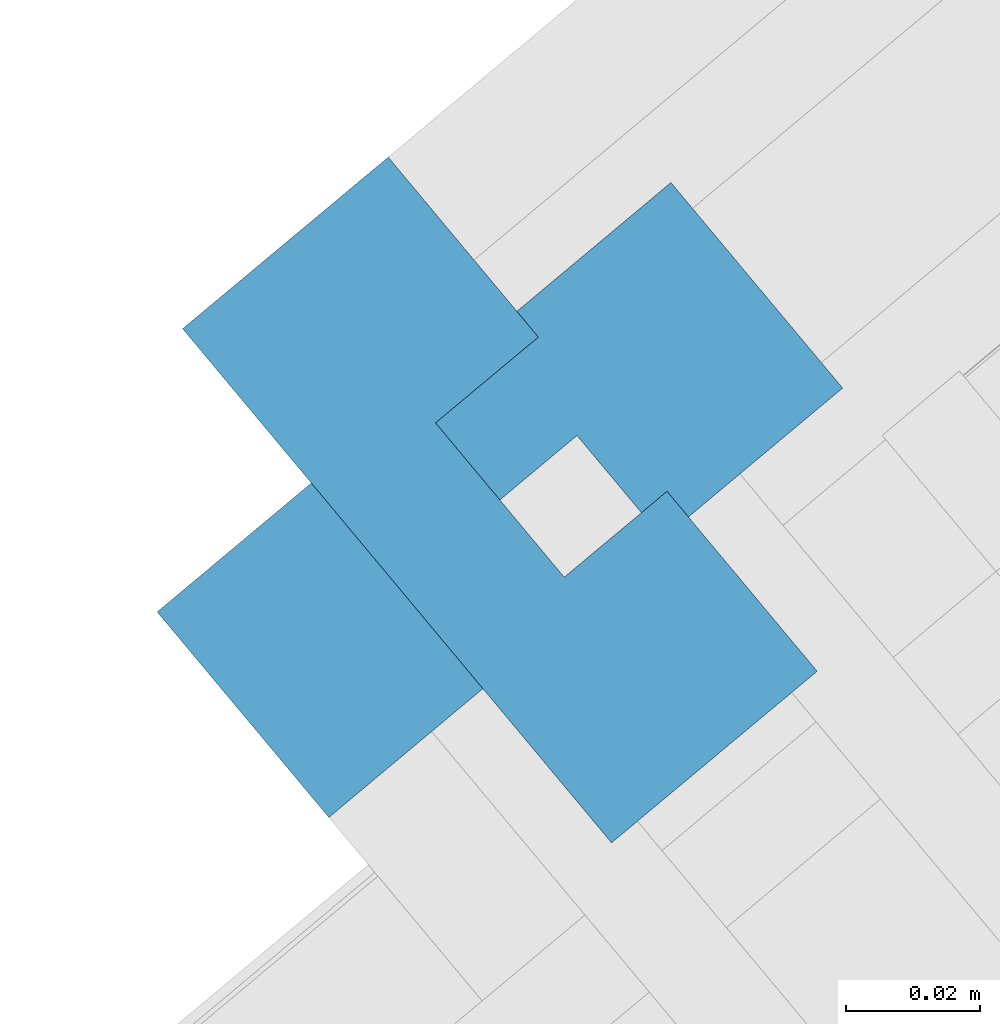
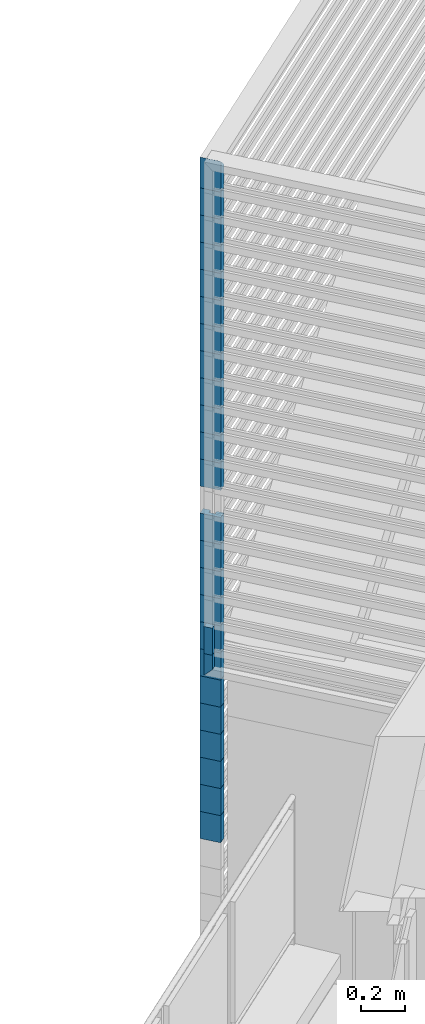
# One storey, part 41 of 50: 26 building element parts, 2 elements without a shape of their own.
"""IFC4 building model written with IfcOpenShell, lengths in metres."""

from ifc_helpers import new_model, entity, si_unit, converted_unit, derived_unit, direction, frame, origin_with_axes, place, context, subcontext, project, spatial, polygons, material, type_object, element, aggregate, save


model = new_model("IFC4")

# Units and contexts
model_context = context("Model", 3, precision=1e-05, world=origin_with_axes(), true_north=direction((0.0, 1.0)))
body_context = subcontext(model_context, "Body", "Model", "MODEL_VIEW")
ifc_project = project(units=[si_unit("LENGTHUNIT", "METRE"), si_unit("AREAUNIT", "SQUARE_METRE"), si_unit("VOLUMEUNIT", "CUBIC_METRE"), converted_unit("PLANEANGLEUNIT", "DEGREE", entity("IfcPlaneAngleMeasure", 0.0174532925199), si_unit("PLANEANGLEUNIT", "RADIAN"), dimensions=[0, 0, 0, 0, 0, 0, 0]), converted_unit("TIMEUNIT", "Year", entity("IfcTimeMeasure", 31556926.0), si_unit("TIMEUNIT", "SECOND"), dimensions=[0, 0, 1, 0, 0, 0, 0]), si_unit("MASSUNIT", "GRAM", prefix="KILO"), si_unit("THERMODYNAMICTEMPERATUREUNIT", "DEGREE_CELSIUS"), si_unit("LUMINOUSINTENSITYUNIT", "LUMEN"), si_unit("ENERGYUNIT", "JOULE", prefix="MEGA"), derived_unit("THERMALCONDUCTANCEUNIT", [(si_unit("POWERUNIT", "WATT"), 1), (si_unit("LENGTHUNIT", "METRE"), -1), (si_unit("THERMODYNAMICTEMPERATUREUNIT", "KELVIN"), -1)]), derived_unit("SPECIFICHEATCAPACITYUNIT", [(si_unit("ENERGYUNIT", "JOULE"), 1), (si_unit("MASSUNIT", "GRAM", prefix="KILO"), -1), (si_unit("THERMODYNAMICTEMPERATUREUNIT", "KELVIN"), -1)]), derived_unit("MASSDENSITYUNIT", [(si_unit("MASSUNIT", "GRAM", prefix="KILO"), 1), (si_unit("VOLUMEUNIT", "CUBIC_METRE"), -1)])], contexts=[model_context])

# Site, building, storey, space
site_placement = place(None, frame((-0.00153261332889, -0.00661245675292, 0.0), z_axis=(0.0, 0.0, 1.0), x_axis=(1.0, 0.0, 0.0)))
site = spatial("IfcSite", under=ifc_project, at=site_placement, Name="Gelände", CompositionType="ELEMENT")
building_placement = place(site_placement, origin_with_axes())
building = spatial("IfcBuilding", under=site, at=building_placement, Name="Gebäude", CompositionType="ELEMENT")
storey_placement = place(building_placement, frame((0.0, 0.0, 8.66), z_axis=(0.0, 0.0, 1.0), x_axis=(1.0, 0.0, 0.0)))
storey = spatial("IfcBuildingStorey", under=building, at=storey_placement, Name="DG2", CompositionType="ELEMENT", Elevation=8.66)
space_placement = place(storey_placement, frame((-4.06558748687, 22.1637970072, 0.22), z_axis=(0.0, 0.0, 1.0), x_axis=(-0.767365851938, -0.641209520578, 0.0)))
space = spatial("IfcSpace", under=storey, at=space_placement, CompositionType="ELEMENT", PredefinedType="NOTDEFINED")

# Curtain wall, building element parts
curtain_wall_type = type_object("IfcCurtainWallType", Name="Fassadentyp", PredefinedType="NOTDEFINED")
curtain_wall_1_placement = place(space_placement, frame((-1.95298492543, -0.601365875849, 0.1), z_axis=(0.0, 0.0, 1.0), x_axis=(-0.767365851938, 0.641209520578, 0.0)))
curtain_wall_1 = element("IfcCurtainWall", 1, at=curtain_wall_1_placement, inside=space, type_object=curtain_wall_type, Name="Fassade-001", PredefinedType="NOTDEFINED")
ifc_material = material(Name="Blech")
building_element_part_1_placement = place(curtain_wall_1_placement, origin_with_axes())
building_element_part_1 = element("IfcBuildingElementPart", 2, at=building_element_part_1_placement, material=ifc_material, Name="Blech", PredefinedType="NOTDEFINED", context=body_context, shape_type="Tessellation", body=[
    polygons([(-1.52830488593, -1.29478343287, 3.0), (-1.54752517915, -1.27174910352, 3.0), (-1.53216895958, -1.25893557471, 3.0), (-1.554592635, -1.23206219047, 3.0), (-1.58530507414, -1.25768924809, 3.0), (-1.52123743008, -1.33447034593, 3.0), (-1.49052499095, -1.3088432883, 3.0), (-1.51294866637, -1.28196990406, 3.0), (-1.52830488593, -1.29478343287, 2.85), (-1.54752517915, -1.27174910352, 2.85), (-1.53216895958, -1.25893557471, 2.85), (-1.554592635, -1.23206219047, 2.85), (-1.58530507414, -1.25768924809, 2.85), (-1.52123743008, -1.33447034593, 2.85), (-1.49052499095, -1.3088432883, 2.85), (-1.51294866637, -1.28196990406, 2.85)], [[[1, 2, 3, 4, 5, 6, 7, 8]], [[2, 1, 9, 10]], [[11, 3, 2, 10]], [[3, 11, 12, 4]], [[13, 5, 4, 12]], [[14, 6, 5, 13]], [[15, 7, 6, 14]], [[16, 8, 7, 15]], [[1, 8, 16, 9]], [[9, 16, 15, 14, 13, 12, 11, 10]]], closed=True),
])
building_element_part_2_placement = place(curtain_wall_1_placement, origin_with_axes())
building_element_part_2 = element("IfcBuildingElementPart", 3, at=building_element_part_2_placement, material=ifc_material, Name="Blech", PredefinedType="NOTDEFINED", context=body_context, shape_type="Tessellation", body=[
    polygons([(-1.52830488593, -1.29478343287, 0.75), (-1.54752517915, -1.27174910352, 0.75), (-1.53216895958, -1.25893557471, 0.75), (-1.554592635, -1.23206219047, 0.75), (-1.58530507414, -1.25768924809, 0.75), (-1.52123743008, -1.33447034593, 0.75), (-1.49052499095, -1.3088432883, 0.75), (-1.51294866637, -1.28196990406, 0.75), (-1.52830488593, -1.29478343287, 0.6), (-1.54752517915, -1.27174910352, 0.6), (-1.53216895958, -1.25893557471, 0.6), (-1.554592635, -1.23206219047, 0.6), (-1.58530507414, -1.25768924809, 0.6), (-1.52123743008, -1.33447034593, 0.6), (-1.49052499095, -1.3088432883, 0.6), (-1.51294866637, -1.28196990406, 0.6)], [[[1, 2, 3, 4, 5, 6, 7, 8]], [[2, 1, 9, 10]], [[11, 3, 2, 10]], [[3, 11, 12, 4]], [[13, 5, 4, 12]], [[14, 6, 5, 13]], [[15, 7, 6, 14]], [[16, 8, 7, 15]], [[1, 8, 16, 9]], [[9, 16, 15, 14, 13, 12, 11, 10]]], closed=True),
])
building_element_part_3_placement = place(curtain_wall_1_placement, origin_with_axes())
building_element_part_3 = element("IfcBuildingElementPart", 4, at=building_element_part_3_placement, material=ifc_material, Name="Blech", PredefinedType="NOTDEFINED", context=body_context, shape_type="Tessellation", body=[
    polygons([(-1.52830488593, -1.29478343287, 0.9), (-1.54752517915, -1.27174910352, 0.9), (-1.53216895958, -1.25893557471, 0.9), (-1.554592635, -1.23206219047, 0.9), (-1.58530507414, -1.25768924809, 0.9), (-1.52123743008, -1.33447034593, 0.9), (-1.49052499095, -1.3088432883, 0.9), (-1.51294866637, -1.28196990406, 0.9), (-1.52830488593, -1.29478343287, 0.75), (-1.54752517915, -1.27174910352, 0.75), (-1.53216895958, -1.25893557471, 0.75), (-1.554592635, -1.23206219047, 0.75), (-1.58530507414, -1.25768924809, 0.75), (-1.52123743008, -1.33447034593, 0.75), (-1.49052499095, -1.3088432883, 0.75), (-1.51294866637, -1.28196990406, 0.75)], [[[1, 2, 3, 4, 5, 6, 7, 8]], [[2, 1, 9, 10]], [[11, 3, 2, 10]], [[3, 11, 12, 4]], [[13, 5, 4, 12]], [[14, 6, 5, 13]], [[15, 7, 6, 14]], [[16, 8, 7, 15]], [[1, 8, 16, 9]], [[9, 16, 15, 14, 13, 12, 11, 10]]], closed=True),
])
building_element_part_4_placement = place(curtain_wall_1_placement, origin_with_axes())
building_element_part_4 = element("IfcBuildingElementPart", 5, at=building_element_part_4_placement, material=ifc_material, Name="Blech", PredefinedType="NOTDEFINED", context=body_context, shape_type="Tessellation", body=[
    polygons([(-1.52830488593, -1.29478343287, 1.05), (-1.54752517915, -1.27174910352, 1.05), (-1.53216895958, -1.25893557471, 1.05), (-1.554592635, -1.23206219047, 1.05), (-1.58530507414, -1.25768924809, 1.05), (-1.52123743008, -1.33447034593, 1.05), (-1.49052499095, -1.3088432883, 1.05), (-1.51294866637, -1.28196990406, 1.05), (-1.52830488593, -1.29478343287, 0.9), (-1.54752517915, -1.27174910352, 0.9), (-1.53216895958, -1.25893557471, 0.9), (-1.554592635, -1.23206219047, 0.9), (-1.58530507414, -1.25768924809, 0.9), (-1.52123743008, -1.33447034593, 0.9), (-1.49052499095, -1.3088432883, 0.9), (-1.51294866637, -1.28196990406, 0.9)], [[[1, 2, 3, 4, 5, 6, 7, 8]], [[2, 1, 9, 10]], [[11, 3, 2, 10]], [[3, 11, 12, 4]], [[13, 5, 4, 12]], [[14, 6, 5, 13]], [[15, 7, 6, 14]], [[16, 8, 7, 15]], [[1, 8, 16, 9]], [[9, 16, 15, 14, 13, 12, 11, 10]]], closed=True),
])
building_element_part_5_placement = place(curtain_wall_1_placement, origin_with_axes())
building_element_part_5 = element("IfcBuildingElementPart", 6, at=building_element_part_5_placement, material=ifc_material, Name="Blech", PredefinedType="NOTDEFINED", context=body_context, shape_type="Tessellation", body=[
    polygons([(-1.52830488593, -1.29478343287, 2.4), (-1.54752517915, -1.27174910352, 2.4), (-1.53216895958, -1.25893557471, 2.4), (-1.554592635, -1.23206219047, 2.4), (-1.58530507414, -1.25768924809, 2.4), (-1.52123743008, -1.33447034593, 2.4), (-1.49052499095, -1.3088432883, 2.4), (-1.51294866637, -1.28196990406, 2.4), (-1.52830488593, -1.29478343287, 2.25), (-1.54752517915, -1.27174910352, 2.25), (-1.53216895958, -1.25893557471, 2.25), (-1.554592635, -1.23206219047, 2.25), (-1.58530507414, -1.25768924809, 2.25), (-1.52123743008, -1.33447034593, 2.25), (-1.49052499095, -1.3088432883, 2.25), (-1.51294866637, -1.28196990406, 2.25)], [[[1, 2, 3, 4, 5, 6, 7, 8]], [[2, 1, 9, 10]], [[11, 3, 2, 10]], [[3, 11, 12, 4]], [[13, 5, 4, 12]], [[14, 6, 5, 13]], [[15, 7, 6, 14]], [[16, 8, 7, 15]], [[1, 8, 16, 9]], [[9, 16, 15, 14, 13, 12, 11, 10]]], closed=True),
])
building_element_part_6_placement = place(curtain_wall_1_placement, origin_with_axes())
building_element_part_6 = element("IfcBuildingElementPart", 7, at=building_element_part_6_placement, material=ifc_material, Name="Blech", PredefinedType="NOTDEFINED", context=body_context, shape_type="Tessellation", body=[
    polygons([(-1.52830488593, -1.29478343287, 1.2), (-1.54752517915, -1.27174910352, 1.2), (-1.53216895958, -1.25893557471, 1.2), (-1.554592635, -1.23206219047, 1.2), (-1.58530507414, -1.25768924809, 1.2), (-1.52123743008, -1.33447034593, 1.2), (-1.49052499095, -1.3088432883, 1.2), (-1.51294866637, -1.28196990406, 1.2), (-1.52830488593, -1.29478343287, 1.05), (-1.54752517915, -1.27174910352, 1.05), (-1.53216895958, -1.25893557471, 1.05), (-1.554592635, -1.23206219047, 1.05), (-1.58530507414, -1.25768924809, 1.05), (-1.52123743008, -1.33447034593, 1.05), (-1.49052499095, -1.3088432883, 1.05), (-1.51294866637, -1.28196990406, 1.05)], [[[1, 2, 3, 4, 5, 6, 7, 8]], [[2, 1, 9, 10]], [[11, 3, 2, 10]], [[3, 11, 12, 4]], [[13, 5, 4, 12]], [[14, 6, 5, 13]], [[15, 7, 6, 14]], [[16, 8, 7, 15]], [[1, 8, 16, 9]], [[9, 16, 15, 14, 13, 12, 11, 10]]], closed=True),
])
building_element_part_7_placement = place(curtain_wall_1_placement, origin_with_axes())
building_element_part_7 = element("IfcBuildingElementPart", 8, at=building_element_part_7_placement, material=ifc_material, Name="Blech", PredefinedType="NOTDEFINED", context=body_context, shape_type="Tessellation", body=[
    polygons([(-1.52830488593, -1.29478343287, 2.85), (-1.54752517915, -1.27174910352, 2.85), (-1.53216895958, -1.25893557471, 2.85), (-1.554592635, -1.23206219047, 2.85), (-1.58530507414, -1.25768924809, 2.85), (-1.52123743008, -1.33447034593, 2.85), (-1.49052499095, -1.3088432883, 2.85), (-1.51294866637, -1.28196990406, 2.85), (-1.52830488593, -1.29478343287, 2.7), (-1.54752517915, -1.27174910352, 2.7), (-1.53216895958, -1.25893557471, 2.7), (-1.554592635, -1.23206219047, 2.7), (-1.58530507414, -1.25768924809, 2.7), (-1.52123743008, -1.33447034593, 2.7), (-1.49052499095, -1.3088432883, 2.7), (-1.51294866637, -1.28196990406, 2.7)], [[[1, 2, 3, 4, 5, 6, 7, 8]], [[2, 1, 9, 10]], [[11, 3, 2, 10]], [[3, 11, 12, 4]], [[13, 5, 4, 12]], [[14, 6, 5, 13]], [[15, 7, 6, 14]], [[16, 8, 7, 15]], [[1, 8, 16, 9]], [[9, 16, 15, 14, 13, 12, 11, 10]]], closed=True),
])
building_element_part_8_placement = place(curtain_wall_1_placement, origin_with_axes())
building_element_part_8 = element("IfcBuildingElementPart", 9, at=building_element_part_8_placement, material=ifc_material, Name="Blech", PredefinedType="NOTDEFINED", context=body_context, shape_type="Tessellation", body=[
    polygons([(-1.52830488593, -1.29478343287, 1.35), (-1.54752517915, -1.27174910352, 1.35), (-1.53216895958, -1.25893557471, 1.35), (-1.554592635, -1.23206219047, 1.35), (-1.58530507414, -1.25768924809, 1.35), (-1.52123743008, -1.33447034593, 1.35), (-1.49052499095, -1.3088432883, 1.35), (-1.51294866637, -1.28196990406, 1.35), (-1.52830488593, -1.29478343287, 1.2), (-1.54752517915, -1.27174910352, 1.2), (-1.53216895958, -1.25893557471, 1.2), (-1.554592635, -1.23206219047, 1.2), (-1.58530507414, -1.25768924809, 1.2), (-1.52123743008, -1.33447034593, 1.2), (-1.49052499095, -1.3088432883, 1.2), (-1.51294866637, -1.28196990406, 1.2)], [[[1, 2, 3, 4, 5, 6, 7, 8]], [[2, 1, 9, 10]], [[11, 3, 2, 10]], [[3, 11, 12, 4]], [[13, 5, 4, 12]], [[14, 6, 5, 13]], [[15, 7, 6, 14]], [[16, 8, 7, 15]], [[1, 8, 16, 9]], [[9, 16, 15, 14, 13, 12, 11, 10]]], closed=True),
])
building_element_part_9_placement = place(curtain_wall_1_placement, origin_with_axes())
building_element_part_9 = element("IfcBuildingElementPart", 10, at=building_element_part_9_placement, material=ifc_material, Name="Blech", PredefinedType="NOTDEFINED", context=body_context, shape_type="Tessellation", body=[
    polygons([(-1.52830488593, -1.29478343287, 1.5), (-1.54752517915, -1.27174910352, 1.5), (-1.53216895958, -1.25893557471, 1.5), (-1.554592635, -1.23206219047, 1.5), (-1.58530507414, -1.25768924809, 1.5), (-1.52123743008, -1.33447034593, 1.5), (-1.49052499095, -1.3088432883, 1.5), (-1.51294866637, -1.28196990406, 1.5), (-1.52830488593, -1.29478343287, 1.35), (-1.54752517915, -1.27174910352, 1.35), (-1.53216895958, -1.25893557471, 1.35), (-1.554592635, -1.23206219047, 1.35), (-1.58530507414, -1.25768924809, 1.35), (-1.52123743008, -1.33447034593, 1.35), (-1.49052499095, -1.3088432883, 1.35), (-1.51294866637, -1.28196990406, 1.35)], [[[1, 2, 3, 4, 5, 6, 7, 8]], [[2, 1, 9, 10]], [[11, 3, 2, 10]], [[3, 11, 12, 4]], [[13, 5, 4, 12]], [[14, 6, 5, 13]], [[15, 7, 6, 14]], [[16, 8, 7, 15]], [[1, 8, 16, 9]], [[9, 16, 15, 14, 13, 12, 11, 10]]], closed=True),
])
building_element_part_10_placement = place(curtain_wall_1_placement, origin_with_axes())
building_element_part_10 = element("IfcBuildingElementPart", 11, at=building_element_part_10_placement, material=ifc_material, Name="Blech", PredefinedType="NOTDEFINED", context=body_context, shape_type="Tessellation", body=[
    polygons([(-1.52830488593, -1.29478343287, 1.65), (-1.54752517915, -1.27174910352, 1.65), (-1.53216895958, -1.25893557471, 1.65), (-1.554592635, -1.23206219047, 1.65), (-1.58530507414, -1.25768924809, 1.65), (-1.52123743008, -1.33447034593, 1.65), (-1.49052499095, -1.3088432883, 1.65), (-1.51294866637, -1.28196990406, 1.65), (-1.52830488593, -1.29478343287, 1.5), (-1.54752517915, -1.27174910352, 1.5), (-1.53216895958, -1.25893557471, 1.5), (-1.554592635, -1.23206219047, 1.5), (-1.58530507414, -1.25768924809, 1.5), (-1.52123743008, -1.33447034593, 1.5), (-1.49052499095, -1.3088432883, 1.5), (-1.51294866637, -1.28196990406, 1.5)], [[[1, 2, 3, 4, 5, 6, 7, 8]], [[2, 1, 9, 10]], [[11, 3, 2, 10]], [[3, 11, 12, 4]], [[13, 5, 4, 12]], [[14, 6, 5, 13]], [[15, 7, 6, 14]], [[16, 8, 7, 15]], [[1, 8, 16, 9]], [[9, 16, 15, 14, 13, 12, 11, 10]]], closed=True),
])
building_element_part_11_placement = place(curtain_wall_1_placement, origin_with_axes())
building_element_part_11 = element("IfcBuildingElementPart", 12, at=building_element_part_11_placement, material=ifc_material, Name="Blech", PredefinedType="NOTDEFINED", context=body_context, shape_type="Tessellation", body=[
    polygons([(-1.52830488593, -1.29478343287, 1.8), (-1.54752517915, -1.27174910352, 1.8), (-1.53216895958, -1.25893557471, 1.8), (-1.554592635, -1.23206219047, 1.8), (-1.58530507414, -1.25768924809, 1.8), (-1.52123743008, -1.33447034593, 1.8), (-1.49052499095, -1.3088432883, 1.8), (-1.51294866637, -1.28196990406, 1.8), (-1.52830488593, -1.29478343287, 1.65), (-1.54752517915, -1.27174910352, 1.65), (-1.53216895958, -1.25893557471, 1.65), (-1.554592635, -1.23206219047, 1.65), (-1.58530507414, -1.25768924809, 1.65), (-1.52123743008, -1.33447034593, 1.65), (-1.49052499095, -1.3088432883, 1.65), (-1.51294866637, -1.28196990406, 1.65)], [[[1, 2, 3, 4, 5, 6, 7, 8]], [[2, 1, 9, 10]], [[11, 3, 2, 10]], [[3, 11, 12, 4]], [[13, 5, 4, 12]], [[14, 6, 5, 13]], [[15, 7, 6, 14]], [[16, 8, 7, 15]], [[1, 8, 16, 9]], [[9, 16, 15, 14, 13, 12, 11, 10]]], closed=True),
])
building_element_part_12_placement = place(curtain_wall_1_placement, origin_with_axes())
building_element_part_12 = element("IfcBuildingElementPart", 13, at=building_element_part_12_placement, material=ifc_material, Name="Blech", PredefinedType="NOTDEFINED", context=body_context, shape_type="Tessellation", body=[
    polygons([(-1.52830488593, -1.29478343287, 2.7), (-1.54752517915, -1.27174910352, 2.7), (-1.53216895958, -1.25893557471, 2.7), (-1.554592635, -1.23206219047, 2.7), (-1.58530507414, -1.25768924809, 2.7), (-1.52123743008, -1.33447034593, 2.7), (-1.49052499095, -1.3088432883, 2.7), (-1.51294866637, -1.28196990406, 2.7), (-1.52830488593, -1.29478343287, 2.55), (-1.54752517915, -1.27174910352, 2.55), (-1.53216895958, -1.25893557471, 2.55), (-1.554592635, -1.23206219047, 2.55), (-1.58530507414, -1.25768924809, 2.55), (-1.52123743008, -1.33447034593, 2.55), (-1.49052499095, -1.3088432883, 2.55), (-1.51294866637, -1.28196990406, 2.55)], [[[1, 2, 3, 4, 5, 6, 7, 8]], [[2, 1, 9, 10]], [[11, 3, 2, 10]], [[3, 11, 12, 4]], [[13, 5, 4, 12]], [[14, 6, 5, 13]], [[15, 7, 6, 14]], [[16, 8, 7, 15]], [[1, 8, 16, 9]], [[9, 16, 15, 14, 13, 12, 11, 10]]], closed=True),
])
building_element_part_13_placement = place(curtain_wall_1_placement, origin_with_axes())
building_element_part_13 = element("IfcBuildingElementPart", 14, at=building_element_part_13_placement, material=ifc_material, Name="Blech", PredefinedType="NOTDEFINED", context=body_context, shape_type="Tessellation", body=[
    polygons([(-1.52830488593, -1.29478343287, 1.95), (-1.54752517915, -1.27174910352, 1.95), (-1.53216895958, -1.25893557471, 1.95), (-1.554592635, -1.23206219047, 1.95), (-1.58530507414, -1.25768924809, 1.95), (-1.52123743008, -1.33447034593, 1.95), (-1.49052499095, -1.3088432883, 1.95), (-1.51294866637, -1.28196990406, 1.95), (-1.52830488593, -1.29478343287, 1.8), (-1.54752517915, -1.27174910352, 1.8), (-1.53216895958, -1.25893557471, 1.8), (-1.554592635, -1.23206219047, 1.8), (-1.58530507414, -1.25768924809, 1.8), (-1.52123743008, -1.33447034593, 1.8), (-1.49052499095, -1.3088432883, 1.8), (-1.51294866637, -1.28196990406, 1.8)], [[[1, 2, 3, 4, 5, 6, 7, 8]], [[2, 1, 9, 10]], [[11, 3, 2, 10]], [[3, 11, 12, 4]], [[13, 5, 4, 12]], [[14, 6, 5, 13]], [[15, 7, 6, 14]], [[16, 8, 7, 15]], [[1, 8, 16, 9]], [[9, 16, 15, 14, 13, 12, 11, 10]]], closed=True),
])
building_element_part_14_placement = place(curtain_wall_1_placement, origin_with_axes())
building_element_part_14 = element("IfcBuildingElementPart", 15, at=building_element_part_14_placement, material=ifc_material, Name="Blech", PredefinedType="NOTDEFINED", context=body_context, shape_type="Tessellation", body=[
    polygons([(-1.52830488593, -1.29478343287, 2.1), (-1.54752517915, -1.27174910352, 2.1), (-1.53216895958, -1.25893557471, 2.1), (-1.554592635, -1.23206219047, 2.1), (-1.58530507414, -1.25768924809, 2.1), (-1.52123743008, -1.33447034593, 2.1), (-1.49052499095, -1.3088432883, 2.1), (-1.51294866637, -1.28196990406, 2.1), (-1.52830488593, -1.29478343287, 1.95), (-1.54752517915, -1.27174910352, 1.95), (-1.53216895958, -1.25893557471, 1.95), (-1.554592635, -1.23206219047, 1.95), (-1.58530507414, -1.25768924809, 1.95), (-1.52123743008, -1.33447034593, 1.95), (-1.49052499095, -1.3088432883, 1.95), (-1.51294866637, -1.28196990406, 1.95)], [[[1, 2, 3, 4, 5, 6, 7, 8]], [[2, 1, 9, 10]], [[11, 3, 2, 10]], [[3, 11, 12, 4]], [[13, 5, 4, 12]], [[14, 6, 5, 13]], [[15, 7, 6, 14]], [[16, 8, 7, 15]], [[1, 8, 16, 9]], [[9, 16, 15, 14, 13, 12, 11, 10]]], closed=True),
])
building_element_part_15_placement = place(curtain_wall_1_placement, origin_with_axes())
building_element_part_15 = element("IfcBuildingElementPart", 16, at=building_element_part_15_placement, material=ifc_material, Name="Blech", PredefinedType="NOTDEFINED", context=body_context, shape_type="Tessellation", body=[
    polygons([(-1.52830488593, -1.29478343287, 2.25), (-1.54752517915, -1.27174910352, 2.25), (-1.53216895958, -1.25893557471, 2.25), (-1.554592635, -1.23206219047, 2.25), (-1.58530507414, -1.25768924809, 2.25), (-1.52123743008, -1.33447034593, 2.25), (-1.49052499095, -1.3088432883, 2.25), (-1.51294866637, -1.28196990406, 2.25), (-1.52830488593, -1.29478343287, 2.1), (-1.54752517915, -1.27174910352, 2.1), (-1.53216895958, -1.25893557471, 2.1), (-1.554592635, -1.23206219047, 2.1), (-1.58530507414, -1.25768924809, 2.1), (-1.52123743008, -1.33447034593, 2.1), (-1.49052499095, -1.3088432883, 2.1), (-1.51294866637, -1.28196990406, 2.1)], [[[1, 2, 3, 4, 5, 6, 7, 8]], [[2, 1, 9, 10]], [[11, 3, 2, 10]], [[3, 11, 12, 4]], [[13, 5, 4, 12]], [[14, 6, 5, 13]], [[15, 7, 6, 14]], [[16, 8, 7, 15]], [[1, 8, 16, 9]], [[9, 16, 15, 14, 13, 12, 11, 10]]], closed=True),
])
building_element_part_16_placement = place(curtain_wall_1_placement, origin_with_axes())
building_element_part_16 = element("IfcBuildingElementPart", 17, at=building_element_part_16_placement, material=ifc_material, Name="Blech", PredefinedType="NOTDEFINED", context=body_context, shape_type="Tessellation", body=[
    polygons([(-1.52830488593, -1.29478343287, 3.15), (-1.54752517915, -1.27174910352, 3.15), (-1.53216895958, -1.25893557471, 3.15), (-1.554592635, -1.23206219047, 3.15), (-1.58530507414, -1.25768924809, 3.15), (-1.52123743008, -1.33447034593, 3.15), (-1.49052499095, -1.3088432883, 3.15), (-1.51294866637, -1.28196990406, 3.15), (-1.52830488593, -1.29478343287, 3.0), (-1.54752517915, -1.27174910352, 3.0), (-1.53216895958, -1.25893557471, 3.0), (-1.554592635, -1.23206219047, 3.0), (-1.58530507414, -1.25768924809, 3.0), (-1.52123743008, -1.33447034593, 3.0), (-1.49052499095, -1.3088432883, 3.0), (-1.51294866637, -1.28196990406, 3.0)], [[[1, 2, 3, 4, 5, 6, 7, 8]], [[2, 1, 9, 10]], [[11, 3, 2, 10]], [[3, 11, 12, 4]], [[13, 5, 4, 12]], [[14, 6, 5, 13]], [[15, 7, 6, 14]], [[16, 8, 7, 15]], [[1, 8, 16, 9]], [[9, 16, 15, 14, 13, 12, 11, 10]]], closed=True),
])
building_element_part_17_placement = place(curtain_wall_1_placement, origin_with_axes())
building_element_part_17 = element("IfcBuildingElementPart", 18, at=building_element_part_17_placement, material=ifc_material, Name="Blech", PredefinedType="NOTDEFINED", context=body_context, shape_type="Tessellation", body=[
    polygons([(-1.52830488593, -1.29478343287, 3.3), (-1.54752517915, -1.27174910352, 3.3), (-1.53216895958, -1.25893557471, 3.3), (-1.554592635, -1.23206219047, 3.3), (-1.58530507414, -1.25768924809, 3.3), (-1.52123743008, -1.33447034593, 3.3), (-1.49052499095, -1.3088432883, 3.3), (-1.51294866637, -1.28196990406, 3.3), (-1.52830488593, -1.29478343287, 3.15), (-1.54752517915, -1.27174910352, 3.15), (-1.53216895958, -1.25893557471, 3.15), (-1.554592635, -1.23206219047, 3.15), (-1.58530507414, -1.25768924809, 3.15), (-1.52123743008, -1.33447034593, 3.15), (-1.49052499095, -1.3088432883, 3.15), (-1.51294866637, -1.28196990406, 3.15)], [[[1, 2, 3, 4, 5, 6, 7, 8]], [[2, 1, 9, 10]], [[11, 3, 2, 10]], [[3, 11, 12, 4]], [[13, 5, 4, 12]], [[14, 6, 5, 13]], [[15, 7, 6, 14]], [[16, 8, 7, 15]], [[1, 8, 16, 9]], [[9, 16, 15, 14, 13, 12, 11, 10]]], closed=True),
])
building_element_part_18_placement = place(curtain_wall_1_placement, origin_with_axes())
building_element_part_18 = element("IfcBuildingElementPart", 19, at=building_element_part_18_placement, material=ifc_material, Name="Blech", PredefinedType="NOTDEFINED", context=body_context, shape_type="Tessellation", body=[
    polygons([(-1.52830488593, -1.29478343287, 3.45), (-1.54752517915, -1.27174910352, 3.45), (-1.53216895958, -1.25893557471, 3.45), (-1.554592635, -1.23206219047, 3.45), (-1.58530507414, -1.25768924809, 3.45), (-1.52123743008, -1.33447034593, 3.45), (-1.49052499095, -1.3088432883, 3.45), (-1.51294866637, -1.28196990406, 3.45), (-1.52830488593, -1.29478343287, 3.3), (-1.54752517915, -1.27174910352, 3.3), (-1.53216895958, -1.25893557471, 3.3), (-1.554592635, -1.23206219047, 3.3), (-1.58530507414, -1.25768924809, 3.3), (-1.52123743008, -1.33447034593, 3.3), (-1.49052499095, -1.3088432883, 3.3), (-1.51294866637, -1.28196990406, 3.3)], [[[1, 2, 3, 4, 5, 6, 7, 8]], [[2, 1, 9, 10]], [[11, 3, 2, 10]], [[3, 11, 12, 4]], [[13, 5, 4, 12]], [[14, 6, 5, 13]], [[15, 7, 6, 14]], [[16, 8, 7, 15]], [[1, 8, 16, 9]], [[9, 16, 15, 14, 13, 12, 11, 10]]], closed=True),
])
building_element_part_19_placement = place(curtain_wall_1_placement, origin_with_axes())
building_element_part_19 = element("IfcBuildingElementPart", 20, at=building_element_part_19_placement, material=ifc_material, Name="Blech", PredefinedType="NOTDEFINED", context=body_context, shape_type="Tessellation", body=[
    polygons([(-1.52830488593, -1.29478343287, 3.6), (-1.54752517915, -1.27174910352, 3.6), (-1.53216895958, -1.25893557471, 3.6), (-1.554592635, -1.23206219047, 3.6), (-1.58530507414, -1.25768924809, 3.6), (-1.52123743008, -1.33447034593, 3.6), (-1.49052499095, -1.3088432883, 3.6), (-1.51294866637, -1.28196990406, 3.6), (-1.52830488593, -1.29478343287, 3.45), (-1.54752517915, -1.27174910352, 3.45), (-1.53216895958, -1.25893557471, 3.45), (-1.554592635, -1.23206219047, 3.45), (-1.58530507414, -1.25768924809, 3.45), (-1.52123743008, -1.33447034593, 3.45), (-1.49052499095, -1.3088432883, 3.45), (-1.51294866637, -1.28196990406, 3.45)], [[[1, 2, 3, 4, 5, 6, 7, 8]], [[2, 1, 9, 10]], [[11, 3, 2, 10]], [[3, 11, 12, 4]], [[13, 5, 4, 12]], [[14, 6, 5, 13]], [[15, 7, 6, 14]], [[16, 8, 7, 15]], [[1, 8, 16, 9]], [[9, 16, 15, 14, 13, 12, 11, 10]]], closed=True),
])
building_element_part_20_placement = place(curtain_wall_1_placement, origin_with_axes())
building_element_part_20 = element("IfcBuildingElementPart", 21, at=building_element_part_20_placement, material=ifc_material, Name="Blech", PredefinedType="NOTDEFINED", context=body_context, shape_type="Tessellation", body=[
    polygons([(-1.52830488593, -1.29478343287, 3.75), (-1.54752517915, -1.27174910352, 3.75), (-1.53216895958, -1.25893557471, 3.75), (-1.554592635, -1.23206219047, 3.75), (-1.58530507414, -1.25768924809, 3.75), (-1.52123743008, -1.33447034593, 3.75), (-1.49052499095, -1.3088432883, 3.75), (-1.51294866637, -1.28196990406, 3.75), (-1.52830488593, -1.29478343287, 3.6), (-1.54752517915, -1.27174910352, 3.6), (-1.53216895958, -1.25893557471, 3.6), (-1.554592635, -1.23206219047, 3.6), (-1.58530507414, -1.25768924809, 3.6), (-1.52123743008, -1.33447034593, 3.6), (-1.49052499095, -1.3088432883, 3.6), (-1.51294866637, -1.28196990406, 3.6)], [[[1, 2, 3, 4, 5, 6, 7, 8]], [[2, 1, 9, 10]], [[11, 3, 2, 10]], [[3, 11, 12, 4]], [[13, 5, 4, 12]], [[14, 6, 5, 13]], [[15, 7, 6, 14]], [[16, 8, 7, 15]], [[1, 8, 16, 9]], [[9, 16, 15, 14, 13, 12, 11, 10]]], closed=True),
])
building_element_part_21_placement = place(curtain_wall_1_placement, origin_with_axes())
building_element_part_21 = element("IfcBuildingElementPart", 22, at=building_element_part_21_placement, material=ifc_material, Name="Blech", PredefinedType="NOTDEFINED", context=body_context, shape_type="Tessellation", body=[
    polygons([(-1.52830488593, -1.29478343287, 3.9), (-1.54752517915, -1.27174910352, 3.9), (-1.53216895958, -1.25893557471, 3.9), (-1.554592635, -1.23206219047, 3.9), (-1.58530507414, -1.25768924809, 3.9), (-1.52123743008, -1.33447034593, 3.9), (-1.49052499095, -1.3088432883, 3.9), (-1.51294866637, -1.28196990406, 3.9), (-1.52830488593, -1.29478343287, 3.75), (-1.54752517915, -1.27174910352, 3.75), (-1.53216895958, -1.25893557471, 3.75), (-1.554592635, -1.23206219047, 3.75), (-1.58530507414, -1.25768924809, 3.75), (-1.52123743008, -1.33447034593, 3.75), (-1.49052499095, -1.3088432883, 3.75), (-1.51294866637, -1.28196990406, 3.75)], [[[1, 2, 3, 4, 5, 6, 7, 8]], [[2, 1, 9, 10]], [[11, 3, 2, 10]], [[3, 11, 12, 4]], [[13, 5, 4, 12]], [[14, 6, 5, 13]], [[15, 7, 6, 14]], [[16, 8, 7, 15]], [[1, 8, 16, 9]], [[9, 16, 15, 14, 13, 12, 11, 10]]], closed=True),
])
building_element_part_22_placement = place(curtain_wall_1_placement, origin_with_axes())
building_element_part_22 = element("IfcBuildingElementPart", 23, at=building_element_part_22_placement, material=ifc_material, Name="Blech", PredefinedType="NOTDEFINED", context=body_context, shape_type="Tessellation", body=[
    polygons([(-1.52830488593, -1.29478343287, 4.05), (-1.54752517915, -1.27174910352, 4.05), (-1.53216895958, -1.25893557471, 4.05), (-1.554592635, -1.23206219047, 4.05), (-1.58530507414, -1.25768924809, 4.05), (-1.52123743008, -1.33447034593, 4.05), (-1.49052499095, -1.3088432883, 4.05), (-1.51294866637, -1.28196990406, 4.05), (-1.52830488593, -1.29478343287, 3.9), (-1.54752517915, -1.27174910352, 3.9), (-1.53216895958, -1.25893557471, 3.9), (-1.554592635, -1.23206219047, 3.9), (-1.58530507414, -1.25768924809, 3.9), (-1.52123743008, -1.33447034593, 3.9), (-1.49052499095, -1.3088432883, 3.9), (-1.51294866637, -1.28196990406, 3.9)], [[[1, 2, 3, 4, 5, 6, 7, 8]], [[2, 1, 9, 10]], [[11, 3, 2, 10]], [[3, 11, 12, 4]], [[13, 5, 4, 12]], [[14, 6, 5, 13]], [[15, 7, 6, 14]], [[16, 8, 7, 15]], [[1, 8, 16, 9]], [[9, 16, 15, 14, 13, 12, 11, 10]]], closed=True),
])
building_element_part_23_placement = place(curtain_wall_1_placement, origin_with_axes())
building_element_part_23 = element("IfcBuildingElementPart", 24, at=building_element_part_23_placement, material=ifc_material, Name="Blech", PredefinedType="NOTDEFINED", context=body_context, shape_type="Tessellation", body=[
    polygons([(-1.52830488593, -1.29478343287, 4.2), (-1.54752517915, -1.27174910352, 4.2), (-1.53216895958, -1.25893557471, 4.2), (-1.554592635, -1.23206219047, 4.2), (-1.58530507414, -1.25768924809, 4.2), (-1.52123743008, -1.33447034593, 4.2), (-1.49052499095, -1.3088432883, 4.2), (-1.51294866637, -1.28196990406, 4.2), (-1.52830488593, -1.29478343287, 4.05), (-1.54752517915, -1.27174910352, 4.05), (-1.53216895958, -1.25893557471, 4.05), (-1.554592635, -1.23206219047, 4.05), (-1.58530507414, -1.25768924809, 4.05), (-1.52123743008, -1.33447034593, 4.05), (-1.49052499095, -1.3088432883, 4.05), (-1.51294866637, -1.28196990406, 4.05)], [[[1, 2, 3, 4, 5, 6, 7, 8]], [[2, 1, 9, 10]], [[11, 3, 2, 10]], [[3, 11, 12, 4]], [[13, 5, 4, 12]], [[14, 6, 5, 13]], [[15, 7, 6, 14]], [[16, 8, 7, 15]], [[1, 8, 16, 9]], [[9, 16, 15, 14, 13, 12, 11, 10]]], closed=True),
])
building_element_part_24_placement = place(curtain_wall_1_placement, origin_with_axes())
building_element_part_24 = element("IfcBuildingElementPart", 25, at=building_element_part_24_placement, material=ifc_material, Name="Blech", PredefinedType="NOTDEFINED", context=body_context, shape_type="Tessellation", body=[
    polygons([(-1.52830488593, -1.29478343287, 4.35000006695), (-1.54752517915, -1.27174910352, 4.35000006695), (-1.53216895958, -1.25893557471, 4.33000006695), (-1.554592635, -1.23206219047, 4.33000006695), (-1.58530507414, -1.25768924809, 4.37000006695), (-1.52123743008, -1.33447034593, 4.37000006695), (-1.49052499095, -1.3088432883, 4.33000006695), (-1.51294866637, -1.28196990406, 4.33000006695), (-1.52830488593, -1.29478343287, 4.2), (-1.54752517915, -1.27174910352, 4.2), (-1.53216895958, -1.25893557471, 4.2), (-1.554592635, -1.23206219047, 4.2), (-1.58530507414, -1.25768924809, 4.2), (-1.52123743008, -1.33447034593, 4.2), (-1.49052499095, -1.3088432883, 4.2), (-1.51294866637, -1.28196990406, 4.2)], [[[1, 2, 3, 4, 5, 6, 7, 8]], [[2, 1, 9, 10]], [[11, 3, 2, 10]], [[3, 11, 12, 4]], [[13, 5, 4, 12]], [[14, 6, 5, 13]], [[15, 7, 6, 14]], [[16, 8, 7, 15]], [[1, 8, 16, 9]], [[9, 16, 15, 14, 13, 12, 11, 10]]], closed=True),
])
aggregate(curtain_wall_1, [building_element_part_1, building_element_part_2, building_element_part_3, building_element_part_4, building_element_part_5, building_element_part_6, building_element_part_7, building_element_part_8, building_element_part_9, building_element_part_10, building_element_part_11, building_element_part_12, building_element_part_13, building_element_part_14, building_element_part_15, building_element_part_16, building_element_part_17, building_element_part_18, building_element_part_19, building_element_part_20, building_element_part_21, building_element_part_22, building_element_part_23, building_element_part_24])

curtain_wall_2_placement = place(space_placement, frame((0.05, 0.162364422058, 1.65), z_axis=(0.0, 0.0, 1.0), x_axis=(-0.767365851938, 0.641209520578, 0.0)))
curtain_wall_2 = element("IfcCurtainWall", 26, at=curtain_wall_2_placement, inside=space, type_object=curtain_wall_type, Name="Fassade-001", PredefinedType="NOTDEFINED")
building_element_part_25_placement = place(curtain_wall_2_placement, origin_with_axes())
building_element_part_25 = element("IfcBuildingElementPart", 27, at=building_element_part_25_placement, material=ifc_material, Name="Blech", PredefinedType="NOTDEFINED", context=body_context, shape_type="Tessellation", body=[
    polygons([(-0.479092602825, 0.596746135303, 0.100000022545), (-0.466268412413, 0.581398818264, 0.100000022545), (-0.439410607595, 0.603841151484, 0.100000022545), (-0.465058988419, 0.634535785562, 0.100000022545), (-0.541795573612, 0.570414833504, 0.100000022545), (-0.516147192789, 0.539720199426, 0.100000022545), (-0.489289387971, 0.562162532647, 0.100000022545), (-0.502113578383, 0.577509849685, 0.100000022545), (-0.479092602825, 0.596746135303, 0.0), (-0.466268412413, 0.581398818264, 0.02), (-0.439410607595, 0.603841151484, 0.02), (-0.465058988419, 0.634535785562, -0.02), (-0.541795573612, 0.570414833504, -0.02), (-0.516147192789, 0.539720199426, 0.02), (-0.489289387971, 0.562162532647, 0.02), (-0.502113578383, 0.577509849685, 0.0)], [[[1, 2, 3, 4, 5, 6, 7, 8]], [[1, 9, 10, 2]], [[10, 11, 3, 2]], [[3, 11, 12, 4]], [[4, 12, 13, 5]], [[5, 13, 14, 6]], [[7, 6, 14, 15]], [[15, 16, 8, 7]], [[8, 16, 9, 1]], [[9, 16, 15, 14, 13, 12, 11, 10]]], closed=True),
])
building_element_part_26_placement = place(curtain_wall_2_placement, origin_with_axes())
building_element_part_26 = element("IfcBuildingElementPart", 28, at=building_element_part_26_placement, material=ifc_material, Name="Blech", PredefinedType="NOTDEFINED", context=body_context, shape_type="Tessellation", body=[
    polygons([(-0.479092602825, 0.596746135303, 0.250000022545), (-0.466268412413, 0.581398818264, 0.250000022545), (-0.439410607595, 0.603841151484, 0.250000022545), (-0.465058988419, 0.634535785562, 0.250000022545), (-0.541795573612, 0.570414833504, 0.250000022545), (-0.516147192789, 0.539720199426, 0.250000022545), (-0.489289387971, 0.562162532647, 0.250000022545), (-0.502113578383, 0.577509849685, 0.250000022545), (-0.479092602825, 0.596746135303, 0.100000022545), (-0.466268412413, 0.581398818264, 0.100000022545), (-0.439410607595, 0.603841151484, 0.100000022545), (-0.465058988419, 0.634535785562, 0.100000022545), (-0.541795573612, 0.570414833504, 0.100000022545), (-0.516147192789, 0.539720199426, 0.100000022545), (-0.489289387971, 0.562162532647, 0.100000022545), (-0.502113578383, 0.577509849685, 0.100000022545)], [[[1, 2, 3, 4, 5, 6, 7, 8]], [[1, 9, 10, 2]], [[10, 11, 3, 2]], [[11, 12, 4, 3]], [[12, 13, 5, 4]], [[13, 14, 6, 5]], [[7, 6, 14, 15]], [[15, 16, 8, 7]], [[8, 16, 9, 1]], [[9, 16, 15, 14, 13, 12, 11, 10]]], closed=True),
])
aggregate(curtain_wall_2, [building_element_part_25, building_element_part_26])

save(model, "model.ifc")
